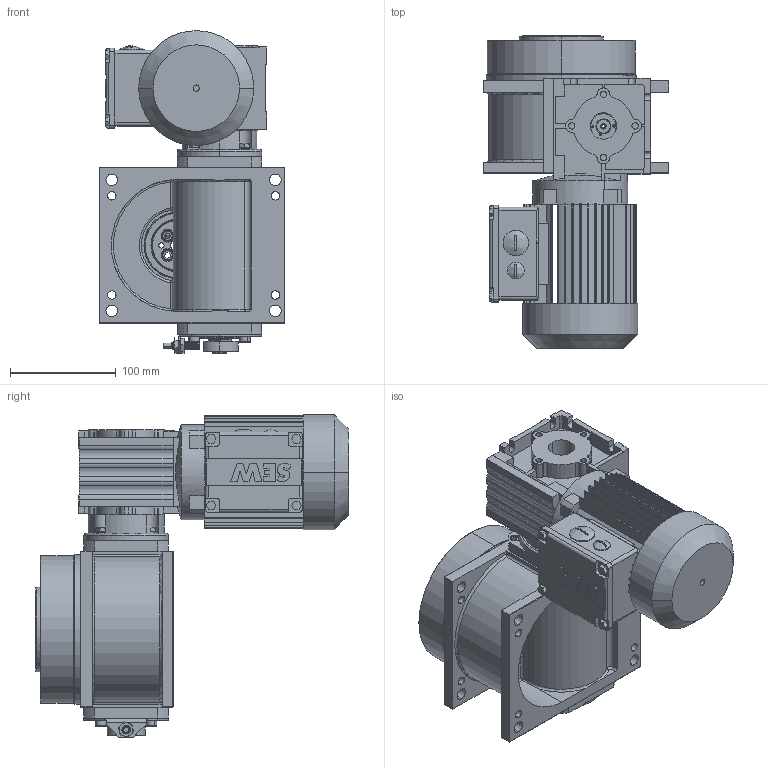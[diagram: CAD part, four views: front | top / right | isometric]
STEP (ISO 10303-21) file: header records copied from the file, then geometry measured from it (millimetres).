
FILE_DESCRIPTION (( 'STEP AP214' ), '1' );
FILE_NAME ('M140_SEW_WAF10DT56L4_E2.STEP', '2021-01-22T15:47:20', ( '' ), ( '' ), 'SwSTEP 2.0', 'SolidWorks 2020', '' );
FILE_SCHEMA (( 'AUTOMOTIVE_DESIGN' ));
Length unit declared in the file: millimetre
Products named in the file (1): M140_SEW_WAF10DT56L4_E2
Bounding box: 176 x 297.2 x 305.79 mm (x, y, z)
Surface area: 385121.7 mm2 (no closed solid volume)
Topology: 0 solids, 49 shells, 1297 faces, 4359 edges, 2929 vertices
Faces by surface type: plane 648, cylinder 457, cone 92, bspline 52, torus 48
Entity records: 67342 total; most frequent: CARTESIAN_POINT 15807, DIRECTION 7814, ORIENTED_EDGE 7238, EDGE_CURVE 4334, VERTEX_POINT 2929, AXIS2_PLACEMENT_3D 2631, VECTOR 2552, LINE 2552
